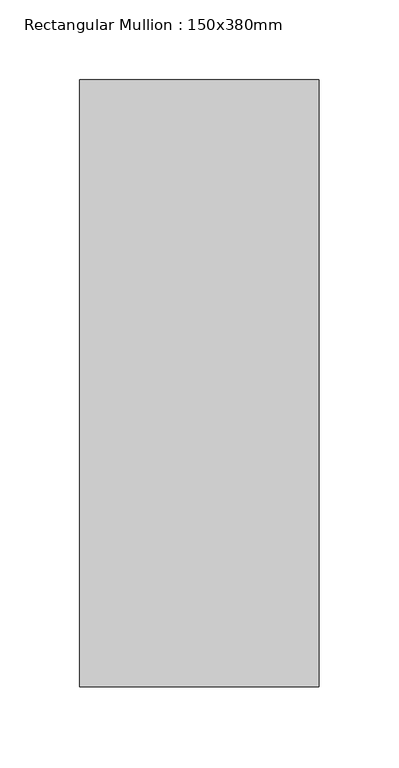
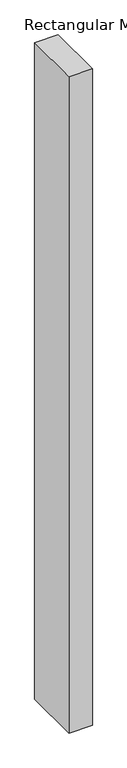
"""IFC4 building model written with IfcOpenShell, lengths in millimetres: member geometry, Rectangular Mullion : 150x380mm."""

from ifc_helpers import new_model, si_unit, frame, origin, place, context, project, spatial, polyline, outline, extrude, source, transform, mapped, element, save


def rectangular_mullion_150x380mm_723c7b80(model_context):
    return source(origin(), model_context, "Body", "SweptSolid", [
        extrude(outline(polyline([(75.0, 190.0), (75.0, -190.0), (-75.0, -190.0), (-75.0, 190.0), (75.0, 190.0)])), frame((0.0, 0.0, -4450.0), z_axis=(0.0, 0.0, 1.0), x_axis=(1.0, 0.0, 0.0)), (0.0, 0.0, 1.0), 4450.0),
    ])


if __name__ == "__main__":
    model = new_model("IFC4")
    model_context = context("Model", 3, world=origin())
    ifc_project = project(units=[si_unit("LENGTHUNIT", "METRE", prefix="MILLI")], contexts=[model_context])
    site = spatial("IfcSite", under=ifc_project)
    building = spatial("IfcBuilding", under=site)
    placement = place(None, origin())
    rectangular_mullion_150x380mm_shape = rectangular_mullion_150x380mm_723c7b80(model_context)
    element("IfcMember", 1, ObjectType="Rectangular Mullion : 150x380mm", at=placement, inside=building, context=model_context, shape_type="MappedRepresentation", body=[
        mapped(rectangular_mullion_150x380mm_shape, transform((0.0, 0.0, 0.0), x_axis=(1.0, 0.0, 0.0), y_axis=(0.0, 1.0, 0.0), z_axis=(0.0, 0.0, 1.0))),
    ])
    save(model, "model.ifc")
